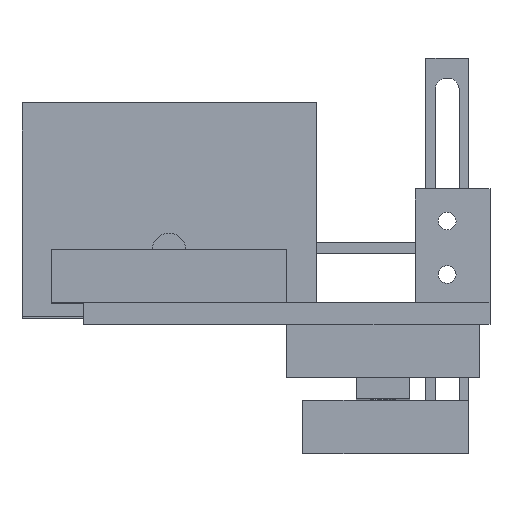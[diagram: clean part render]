
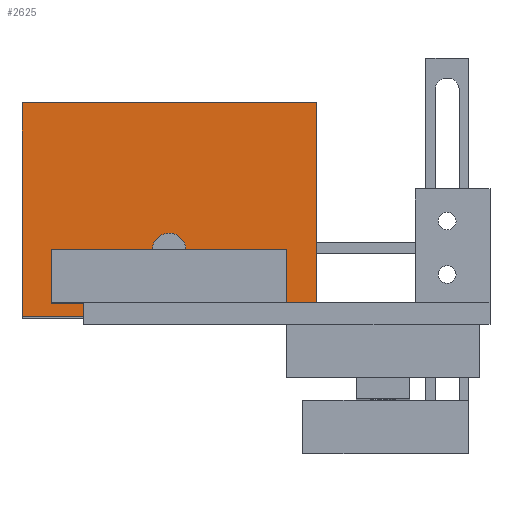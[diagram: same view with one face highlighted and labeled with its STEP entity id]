
A CAD part, top view. The second image highlights one B-rep face of the part: STEP entity #2625.
In plain terms, the highlighted planar face has unit normal (0, 0, 1).
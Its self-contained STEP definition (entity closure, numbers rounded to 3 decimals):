
#2063 = EDGE_CURVE('',#2064,#2066,#2068,.T.);
#2064 = VERTEX_POINT('',#2065);
#2065 = CARTESIAN_POINT('',(-27.5,27.5,66.));
#2066 = VERTEX_POINT('',#2067);
#2067 = CARTESIAN_POINT('',(27.5,27.5,66.));
#2068 = SURFACE_CURVE('',#2069,(#2073,#2085),.PCURVE_S1.);
#2069 = LINE('',#2070,#2071);
#2070 = CARTESIAN_POINT('',(-27.5,27.5,66.));
#2071 = VECTOR('',#2072,1.);
#2072 = DIRECTION('',(1.,0.,0.));
#2073 = PCURVE('',#2074,#2079);
#2074 = PLANE('',#2075);
#2075 = AXIS2_PLACEMENT_3D('',#2076,#2077,#2078);
#2076 = CARTESIAN_POINT('',(-27.5,27.5,66.));
#2077 = DIRECTION('',(0.,1.,0.));
#2078 = DIRECTION('',(1.,0.,0.));
#2079 = DEFINITIONAL_REPRESENTATION('',(#2080),#2084);
#2080 = LINE('',#2081,#2082);
#2081 = CARTESIAN_POINT('',(0.,0.));
#2082 = VECTOR('',#2083,1.);
#2083 = DIRECTION('',(1.,0.));
#2084 = ( GEOMETRIC_REPRESENTATION_CONTEXT(2)
PARAMETRIC_REPRESENTATION_CONTEXT() REPRESENTATION_CONTEXT('2D SPACE',''
  ) );
#2085 = PCURVE('',#2086,#2091);
#2086 = PLANE('',#2087);
#2087 = AXIS2_PLACEMENT_3D('',#2088,#2089,#2090);
#2088 = CARTESIAN_POINT('',(0.,0.,66.));
#2089 = DIRECTION('',(0.,0.,-1.));
#2090 = DIRECTION('',(-1.,0.,0.));
#2091 = DEFINITIONAL_REPRESENTATION('',(#2092),#2096);
#2092 = LINE('',#2093,#2094);
#2093 = CARTESIAN_POINT('',(27.5,27.5));
#2094 = VECTOR('',#2095,1.);
#2095 = DIRECTION('',(-1.,0.));
#2096 = ( GEOMETRIC_REPRESENTATION_CONTEXT(2)
PARAMETRIC_REPRESENTATION_CONTEXT() REPRESENTATION_CONTEXT('2D SPACE',''
  ) );
#2114 = PLANE('',#2115);
#2115 = AXIS2_PLACEMENT_3D('',#2116,#2117,#2118);
#2116 = CARTESIAN_POINT('',(27.5,12.5,66.));
#2117 = DIRECTION('',(1.,0.,0.));
#2118 = DIRECTION('',(0.,-1.,-0.));
#2168 = PLANE('',#2169);
#2169 = AXIS2_PLACEMENT_3D('',#2170,#2171,#2172);
#2170 = CARTESIAN_POINT('',(-27.5,-12.5,66.));
#2171 = DIRECTION('',(-1.,0.,0.));
#2172 = DIRECTION('',(0.,1.,0.));
#2338 = VERTEX_POINT('',#2339);
#2339 = CARTESIAN_POINT('',(3.15,0.,66.));
#2346 = CYLINDRICAL_SURFACE('',#2347,3.15);
#2347 = AXIS2_PLACEMENT_3D('',#2348,#2349,#2350);
#2348 = CARTESIAN_POINT('',(0.,0.,66.));
#2349 = DIRECTION('',(0.,0.,-1.));
#2350 = DIRECTION('',(-1.,0.,0.));
#2365 = EDGE_CURVE('',#2338,#2338,#2366,.T.);
#2366 = SURFACE_CURVE('',#2367,(#2372,#2379),.PCURVE_S1.);
#2367 = CIRCLE('',#2368,3.15);
#2368 = AXIS2_PLACEMENT_3D('',#2369,#2370,#2371);
#2369 = CARTESIAN_POINT('',(0.,0.,66.));
#2370 = DIRECTION('',(0.,-0.,1.));
#2371 = DIRECTION('',(-1.,0.,0.));
#2372 = PCURVE('',#2346,#2373);
#2373 = DEFINITIONAL_REPRESENTATION('',(#2374),#2378);
#2374 = LINE('',#2375,#2376);
#2375 = CARTESIAN_POINT('',(6.283,0.));
#2376 = VECTOR('',#2377,1.);
#2377 = DIRECTION('',(-1.,0.));
#2378 = ( GEOMETRIC_REPRESENTATION_CONTEXT(2)
PARAMETRIC_REPRESENTATION_CONTEXT() REPRESENTATION_CONTEXT('2D SPACE',''
  ) );
#2379 = PCURVE('',#2086,#2380);
#2380 = DEFINITIONAL_REPRESENTATION('',(#2381),#2389);
#2381 = ( BOUNDED_CURVE() B_SPLINE_CURVE(2,(#2382,#2383,#2384,#2385,
#2386,#2387,#2388),.UNSPECIFIED.,.T.,.F.) B_SPLINE_CURVE_WITH_KNOTS((1,2
    ,2,2,2,1),(-2.094,0.,2.094,4.189,
6.283,8.378),.UNSPECIFIED.) CURVE()
GEOMETRIC_REPRESENTATION_ITEM() RATIONAL_B_SPLINE_CURVE((1.,0.5,1.,0.5,
1.,0.5,1.)) REPRESENTATION_ITEM('') );
#2382 = CARTESIAN_POINT('',(3.15,0.));
#2383 = CARTESIAN_POINT('',(3.15,-5.456));
#2384 = CARTESIAN_POINT('',(-1.575,-2.728));
#2385 = CARTESIAN_POINT('',(-6.3,0.));
#2386 = CARTESIAN_POINT('',(-1.575,2.728));
#2387 = CARTESIAN_POINT('',(3.15,5.456));
#2388 = CARTESIAN_POINT('',(3.15,0.));
#2389 = ( GEOMETRIC_REPRESENTATION_CONTEXT(2)
PARAMETRIC_REPRESENTATION_CONTEXT() REPRESENTATION_CONTEXT('2D SPACE',''
  ) );
#2421 = EDGE_CURVE('',#2422,#2064,#2424,.T.);
#2422 = VERTEX_POINT('',#2423);
#2423 = CARTESIAN_POINT('',(-27.5,-12.5,66.));
#2424 = SURFACE_CURVE('',#2425,(#2429,#2436),.PCURVE_S1.);
#2425 = LINE('',#2426,#2427);
#2426 = CARTESIAN_POINT('',(-27.5,-12.5,66.));
#2427 = VECTOR('',#2428,1.);
#2428 = DIRECTION('',(0.,1.,0.));
#2429 = PCURVE('',#2168,#2430);
#2430 = DEFINITIONAL_REPRESENTATION('',(#2431),#2435);
#2431 = LINE('',#2432,#2433);
#2432 = CARTESIAN_POINT('',(0.,0.));
#2433 = VECTOR('',#2434,1.);
#2434 = DIRECTION('',(1.,0.));
#2435 = ( GEOMETRIC_REPRESENTATION_CONTEXT(2)
PARAMETRIC_REPRESENTATION_CONTEXT() REPRESENTATION_CONTEXT('2D SPACE',''
  ) );
#2436 = PCURVE('',#2086,#2437);
#2437 = DEFINITIONAL_REPRESENTATION('',(#2438),#2442);
#2438 = LINE('',#2439,#2440);
#2439 = CARTESIAN_POINT('',(27.5,-12.5));
#2440 = VECTOR('',#2441,1.);
#2441 = DIRECTION('',(0.,1.));
#2442 = ( GEOMETRIC_REPRESENTATION_CONTEXT(2)
PARAMETRIC_REPRESENTATION_CONTEXT() REPRESENTATION_CONTEXT('2D SPACE',''
  ) );
#2484 = PLANE('',#2485);
#2485 = AXIS2_PLACEMENT_3D('',#2486,#2487,#2488);
#2486 = CARTESIAN_POINT('',(27.5,-12.5,66.));
#2487 = DIRECTION('',(0.,-1.,-0.));
#2488 = DIRECTION('',(-1.,0.,0.));
#2499 = EDGE_CURVE('',#2500,#2422,#2502,.T.);
#2500 = VERTEX_POINT('',#2501);
#2501 = CARTESIAN_POINT('',(27.5,-12.5,66.));
#2502 = SURFACE_CURVE('',#2503,(#2507,#2514),.PCURVE_S1.);
#2503 = LINE('',#2504,#2505);
#2504 = CARTESIAN_POINT('',(27.5,-12.5,66.));
#2505 = VECTOR('',#2506,1.);
#2506 = DIRECTION('',(-1.,0.,0.));
#2507 = PCURVE('',#2484,#2508);
#2508 = DEFINITIONAL_REPRESENTATION('',(#2509),#2513);
#2509 = LINE('',#2510,#2511);
#2510 = CARTESIAN_POINT('',(0.,0.));
#2511 = VECTOR('',#2512,1.);
#2512 = DIRECTION('',(1.,0.));
#2513 = ( GEOMETRIC_REPRESENTATION_CONTEXT(2)
PARAMETRIC_REPRESENTATION_CONTEXT() REPRESENTATION_CONTEXT('2D SPACE',''
  ) );
#2514 = PCURVE('',#2086,#2515);
#2515 = DEFINITIONAL_REPRESENTATION('',(#2516),#2520);
#2516 = LINE('',#2517,#2518);
#2517 = CARTESIAN_POINT('',(-27.5,-12.5));
#2518 = VECTOR('',#2519,1.);
#2519 = DIRECTION('',(1.,0.));
#2520 = ( GEOMETRIC_REPRESENTATION_CONTEXT(2)
PARAMETRIC_REPRESENTATION_CONTEXT() REPRESENTATION_CONTEXT('2D SPACE',''
  ) );
#2570 = EDGE_CURVE('',#2066,#2500,#2571,.T.);
#2571 = SURFACE_CURVE('',#2572,(#2576,#2583),.PCURVE_S1.);
#2572 = LINE('',#2573,#2574);
#2573 = CARTESIAN_POINT('',(27.5,12.5,66.));
#2574 = VECTOR('',#2575,1.);
#2575 = DIRECTION('',(0.,-1.,-0.));
#2576 = PCURVE('',#2114,#2577);
#2577 = DEFINITIONAL_REPRESENTATION('',(#2578),#2582);
#2578 = LINE('',#2579,#2580);
#2579 = CARTESIAN_POINT('',(0.,0.));
#2580 = VECTOR('',#2581,1.);
#2581 = DIRECTION('',(1.,0.));
#2582 = ( GEOMETRIC_REPRESENTATION_CONTEXT(2)
PARAMETRIC_REPRESENTATION_CONTEXT() REPRESENTATION_CONTEXT('2D SPACE',''
  ) );
#2583 = PCURVE('',#2086,#2584);
#2584 = DEFINITIONAL_REPRESENTATION('',(#2585),#2589);
#2585 = LINE('',#2586,#2587);
#2586 = CARTESIAN_POINT('',(-27.5,12.5));
#2587 = VECTOR('',#2588,1.);
#2588 = DIRECTION('',(-0.,-1.));
#2589 = ( GEOMETRIC_REPRESENTATION_CONTEXT(2)
PARAMETRIC_REPRESENTATION_CONTEXT() REPRESENTATION_CONTEXT('2D SPACE',''
  ) );
#2625 = ADVANCED_FACE('',(#2626,#2632),#2086,.F.);
#2626 = FACE_BOUND('',#2627,.T.);
#2627 = EDGE_LOOP('',(#2628,#2629,#2630,#2631));
#2628 = ORIENTED_EDGE('',*,*,#2570,.F.);
#2629 = ORIENTED_EDGE('',*,*,#2063,.F.);
#2630 = ORIENTED_EDGE('',*,*,#2421,.F.);
#2631 = ORIENTED_EDGE('',*,*,#2499,.F.);
#2632 = FACE_BOUND('',#2633,.T.);
#2633 = EDGE_LOOP('',(#2634));
#2634 = ORIENTED_EDGE('',*,*,#2365,.F.);
